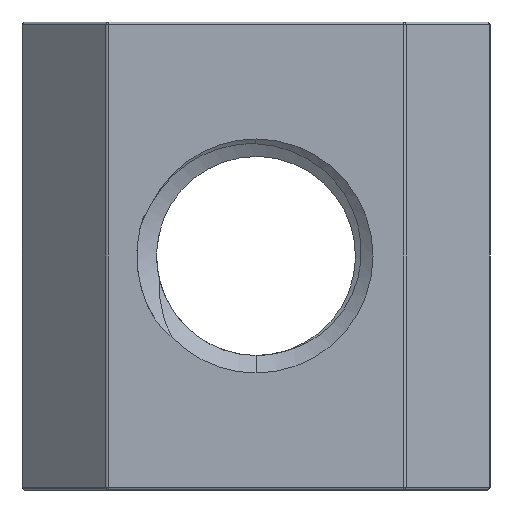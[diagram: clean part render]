
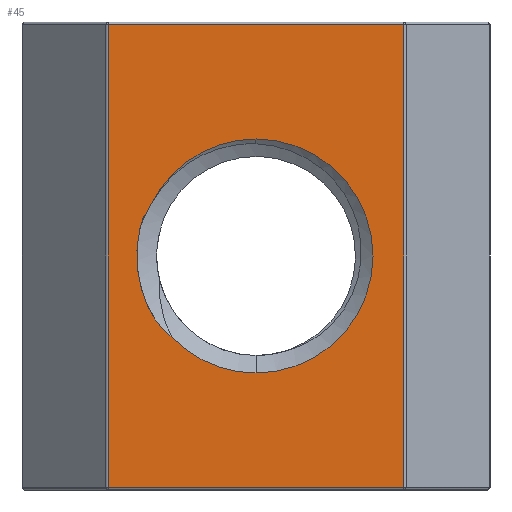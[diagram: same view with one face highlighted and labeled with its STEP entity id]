
A CAD part, front view. The second image highlights one B-rep face of the part: STEP entity #45.
In plain terms, the highlighted planar face has unit normal (0, -1, 0).
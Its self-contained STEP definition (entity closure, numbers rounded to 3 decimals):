
#45 = ADVANCED_FACE ( 'NONE', ( #364, #1406 ), #1685, .F. ) ;
#80 = ORIENTED_EDGE ( 'NONE', *, *, #3153, .T. ) ;
#119 = CARTESIAN_POINT ( 'NONE',  ( -2.868, -3., -2.788 ) ) ;
#163 = VERTEX_POINT ( 'NONE', #1297 ) ;
#168 = VERTEX_POINT ( 'NONE', #3139 ) ;
#180 = DIRECTION ( 'NONE',  ( 0., 0., 1. ) ) ;
#249 = CARTESIAN_POINT ( 'NONE',  ( -4.084, -3., -0.092 ) ) ;
#267 = CARTESIAN_POINT ( 'NONE',  ( -3.738, -3., -1.649 ) ) ;
#270 = VECTOR ( 'NONE', #180, 1000. ) ;
#275 = VECTOR ( 'NONE', #2005, 1000. ) ;
#327 = AXIS2_PLACEMENT_3D ( 'NONE', #2368, #2605, #1067 ) ;
#334 = B_SPLINE_CURVE_WITH_KNOTS ( 'NONE', 3,
 ( #709, #1992, #748, #2243 ),
 .UNSPECIFIED., .F., .F.,
 ( 4, 4 ),
 ( 0.006, 0.007 ),
 .UNSPECIFIED. ) ;
#346 = VERTEX_POINT ( 'NONE', #2330 ) ;
#364 = FACE_OUTER_BOUND ( 'NONE', #2568, .T. ) ;
#473 = CARTESIAN_POINT ( 'NONE',  ( -5.059, -3., 8. ) ) ;
#579 = CARTESIAN_POINT ( 'NONE',  ( -3.622, -3., -1.889 ) ) ;
#597 = ORIENTED_EDGE ( 'NONE', *, *, #1500, .F. ) ;
#632 = VERTEX_POINT ( 'NONE', #3353 ) ;
#645 = VERTEX_POINT ( 'NONE', #119 ) ;
#709 = CARTESIAN_POINT ( 'NONE',  ( -3.591, -3., 1.762 ) ) ;
#748 = CARTESIAN_POINT ( 'NONE',  ( -3.866, -3., 1.246 ) ) ;
#758 = CARTESIAN_POINT ( 'NONE',  ( -2.868, -3., -2.788 ) ) ;
#831 = CARTESIAN_POINT ( 'NONE',  ( -3.988, -3., -0.887 ) ) ;
#871 = CIRCLE ( 'NONE', #2013, 4. ) ;
#881 = ORIENTED_EDGE ( 'NONE', *, *, #2708, .F. ) ;
#892 = EDGE_CURVE ( 'NONE', #163, #2217, #3079, .T. ) ;
#998 = CARTESIAN_POINT ( 'NONE',  ( 0., -3., 0. ) ) ;
#1004 = EDGE_LOOP ( 'NONE', ( #597, #2872, #1388, #1410, #881, #3019 ) ) ;
#1009 = VERTEX_POINT ( 'NONE', #1728 ) ;
#1067 = DIRECTION ( 'NONE',  ( 0., 0., 1. ) ) ;
#1098 = CIRCLE ( 'NONE', #2997, 4. ) ;
#1180 = EDGE_CURVE ( 'NONE', #1009, #163, #1486, .T. ) ;
#1238 = LINE ( 'NONE', #473, #275 ) ;
#1241 = EDGE_CURVE ( 'NONE', #2144, #645, #2992, .T. ) ;
#1254 = DIRECTION ( 'NONE',  ( 0., 0., 1. ) ) ;
#1272 = CARTESIAN_POINT ( 'NONE',  ( -5.059, -3., 7.9 ) ) ;
#1276 = DIRECTION ( 'NONE',  ( -1., 0., 0. ) ) ;
#1297 = CARTESIAN_POINT ( 'NONE',  ( 5.059, -3., 7.9 ) ) ;
#1307 = DIRECTION ( 'NONE',  ( 0., 0., 1. ) ) ;
#1323 = CARTESIAN_POINT ( 'NONE',  ( -3.961, -3., 0.965 ) ) ;
#1337 = DIRECTION ( 'NONE',  ( 1., 0., 0. ) ) ;
#1351 = AXIS2_PLACEMENT_3D ( 'NONE', #1511, #2020, #1254 ) ;
#1360 = VECTOR ( 'NONE', #1276, 1000. ) ;
#1361 = DIRECTION ( 'NONE',  ( 0., 1., 0. ) ) ;
#1388 = ORIENTED_EDGE ( 'NONE', *, *, #2142, .T. ) ;
#1406 = FACE_BOUND ( 'NONE', #1004, .T. ) ;
#1410 = ORIENTED_EDGE ( 'NONE', *, *, #1241, .T. ) ;
#1486 = LINE ( 'NONE', #2513, #270 ) ;
#1500 = EDGE_CURVE ( 'NONE', #632, #2788, #334, .T. ) ;
#1511 = CARTESIAN_POINT ( 'NONE',  ( -8., -3., 8. ) ) ;
#1587 = CARTESIAN_POINT ( 'NONE',  ( -3.483, -3., -2.118 ) ) ;
#1623 = EDGE_CURVE ( 'NONE', #2217, #346, #1238, .T. ) ;
#1685 = PLANE ( 'NONE',  #1351 ) ;
#1728 = CARTESIAN_POINT ( 'NONE',  ( 5.059, -3., -7.9 ) ) ;
#1812 = CARTESIAN_POINT ( 'NONE',  ( -4.07, -3., -0.357 ) ) ;
#1821 = CARTESIAN_POINT ( 'NONE',  ( -3.483, -3., -2.118 ) ) ;
#1839 = CARTESIAN_POINT ( 'NONE',  ( 0., -3., 0. ) ) ;
#1929 = EDGE_CURVE ( 'NONE', #632, #3326, #871, .T. ) ;
#1992 = CARTESIAN_POINT ( 'NONE',  ( -3.743, -3., 1.512 ) ) ;
#2005 = DIRECTION ( 'NONE',  ( 0., 0., -1. ) ) ;
#2006 = CARTESIAN_POINT ( 'NONE',  ( -8., -3., 7.9 ) ) ;
#2013 = AXIS2_PLACEMENT_3D ( 'NONE', #998, #1361, #2392 ) ;
#2020 = DIRECTION ( 'NONE',  ( 0., 1., 0. ) ) ;
#2076 = DIRECTION ( 'NONE',  ( 0., 1., 0. ) ) ;
#2137 = VECTOR ( 'NONE', #1337, 1000. ) ;
#2142 = EDGE_CURVE ( 'NONE', #3326, #2144, #1098, .T. ) ;
#2144 = VERTEX_POINT ( 'NONE', #2599 ) ;
#2155 = CARTESIAN_POINT ( 'NONE',  ( 5.1, -3., -7.9 ) ) ;
#2157 = EDGE_CURVE ( 'NONE', #2788, #168, #3100, .T. ) ;
#2200 = CARTESIAN_POINT ( 'NONE',  ( 0., -3., 4. ) ) ;
#2202 = ORIENTED_EDGE ( 'NONE', *, *, #1180, .T. ) ;
#2217 = VERTEX_POINT ( 'NONE', #1272 ) ;
#2243 = CARTESIAN_POINT ( 'NONE',  ( -3.961, -3., 0.965 ) ) ;
#2330 = CARTESIAN_POINT ( 'NONE',  ( -5.059, -3., -7.9 ) ) ;
#2338 = CARTESIAN_POINT ( 'NONE',  ( -3.302, -3., -2.366 ) ) ;
#2357 = CARTESIAN_POINT ( 'NONE',  ( -3.961, -3., 0.965 ) ) ;
#2368 = CARTESIAN_POINT ( 'NONE',  ( 0., -3., 0. ) ) ;
#2374 = CARTESIAN_POINT ( 'NONE',  ( -4.062, -3., 0.438 ) ) ;
#2392 = DIRECTION ( 'NONE',  ( 0., 0., 1. ) ) ;
#2411 = ORIENTED_EDGE ( 'NONE', *, *, #892, .T. ) ;
#2513 = CARTESIAN_POINT ( 'NONE',  ( 5.059, -3., 8. ) ) ;
#2568 = EDGE_LOOP ( 'NONE', ( #2411, #2690, #80, #2202 ) ) ;
#2599 = CARTESIAN_POINT ( 'NONE',  ( 0., -3., -4. ) ) ;
#2605 = DIRECTION ( 'NONE',  ( 0., 1., 0. ) ) ;
#2690 = ORIENTED_EDGE ( 'NONE', *, *, #1623, .T. ) ;
#2708 = EDGE_CURVE ( 'NONE', #168, #645, #3301, .T. ) ;
#2788 = VERTEX_POINT ( 'NONE', #2357 ) ;
#2872 = ORIENTED_EDGE ( 'NONE', *, *, #1929, .T. ) ;
#2908 = CARTESIAN_POINT ( 'NONE',  ( -3.921, -3., -1.147 ) ) ;
#2992 = CIRCLE ( 'NONE', #327, 4. ) ;
#2997 = AXIS2_PLACEMENT_3D ( 'NONE', #1839, #2076, #1307 ) ;
#3019 = ORIENTED_EDGE ( 'NONE', *, *, #2157, .F. ) ;
#3079 = LINE ( 'NONE', #2006, #1360 ) ;
#3100 = B_SPLINE_CURVE_WITH_KNOTS ( 'NONE', 3,
 ( #1323, #3130, #2374, #249, #1812, #831, #2908, #267, #579, #1587 ),
 .UNSPECIFIED., .F., .F.,
 ( 4, 2, 2, 2, 4 ),
 ( 0., 0.001, 0.002, 0.002, 0.003 ),
 .UNSPECIFIED. ) ;
#3130 = CARTESIAN_POINT ( 'NONE',  ( -4.024, -3., 0.705 ) ) ;
#3139 = CARTESIAN_POINT ( 'NONE',  ( -3.483, -3., -2.118 ) ) ;
#3143 = LINE ( 'NONE', #2155, #2137 ) ;
#3153 = EDGE_CURVE ( 'NONE', #346, #1009, #3143, .T. ) ;
#3156 = CARTESIAN_POINT ( 'NONE',  ( -3.096, -3., -2.589 ) ) ;
#3301 = B_SPLINE_CURVE_WITH_KNOTS ( 'NONE', 3,
 ( #1821, #2338, #3156, #758 ),
 .UNSPECIFIED., .F., .F.,
 ( 4, 4 ),
 ( 0., 0.001 ),
 .UNSPECIFIED. ) ;
#3326 = VERTEX_POINT ( 'NONE', #2200 ) ;
#3353 = CARTESIAN_POINT ( 'NONE',  ( -3.591, -3., 1.762 ) ) ;
